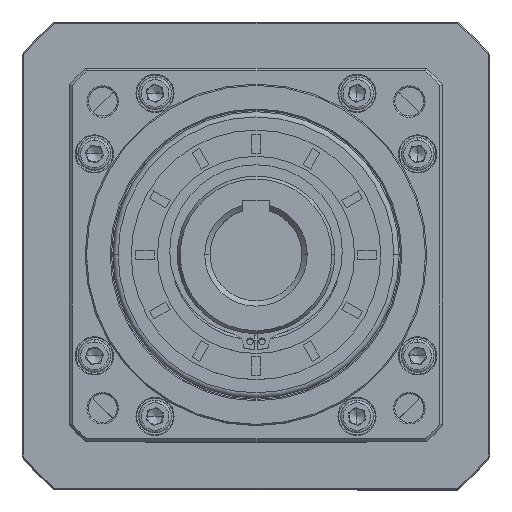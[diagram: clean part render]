
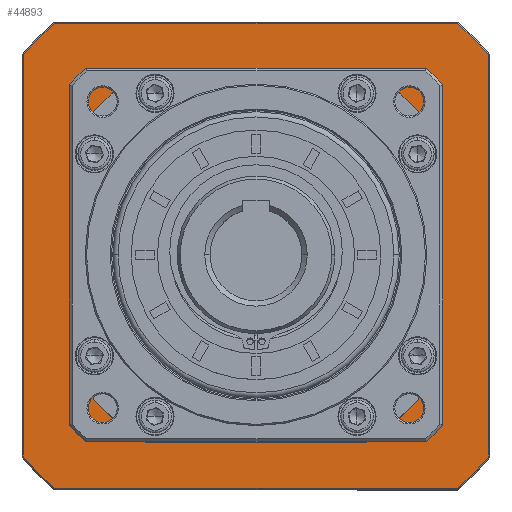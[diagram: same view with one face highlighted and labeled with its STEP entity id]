
A CAD part, top view. The second image highlights one B-rep face of the part: STEP entity #44893.
In plain terms, the highlighted planar face has unit normal (0, 0, 1).
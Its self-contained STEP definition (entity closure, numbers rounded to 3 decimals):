
#1108 = DIRECTION ( 'NONE',  ( 0., 1., 0. ) ) ;
#1833 = VERTEX_POINT ( 'NONE', #12938 ) ;
#2129 = CARTESIAN_POINT ( 'NONE',  ( 54.823, 51.831, 9.55 ) ) ;
#4545 = LINE ( 'NONE', #80952, #8919 ) ;
#5855 = EDGE_CURVE ( 'NONE', #78887, #1833, #36853, .T. ) ;
#7788 = CIRCLE ( 'NONE', #11355, 82. ) ;
#8919 = VECTOR ( 'NONE', #15076, 1000. ) ;
#9256 = VERTEX_POINT ( 'NONE', #83240 ) ;
#9906 = CARTESIAN_POINT ( 'NONE',  ( 214.323, 198.86, 9.55 ) ) ;
#10015 = AXIS2_PLACEMENT_3D ( 'NONE', #50588, #69672, #59295 ) ;
#10748 = ORIENTED_EDGE ( 'NONE', *, *, #57779, .F. ) ;
#11355 = AXIS2_PLACEMENT_3D ( 'NONE', #105370, #28653, #95358 ) ;
#12938 = CARTESIAN_POINT ( 'NONE',  ( 66.794, 39.86, 9.55 ) ) ;
#13500 = EDGE_CURVE ( 'NONE', #25512, #61530, #7788, .T. ) ;
#14575 = DIRECTION ( 'NONE',  ( 1., 0., 0. ) ) ;
#14766 = CARTESIAN_POINT ( 'NONE',  ( 143.323, 128.36, 9.55 ) ) ;
#15076 = DIRECTION ( 'NONE',  ( 0., -1., 0. ) ) ;
#15946 = VECTOR ( 'NONE', #60922, 1000. ) ;
#19432 = CIRCLE ( 'NONE', #29413, 82. ) ;
#19733 = VERTEX_POINT ( 'NONE', #2129 ) ;
#20453 = VECTOR ( 'NONE', #109154, 1000. ) ;
#20929 = DIRECTION ( 'NONE',  ( 0., 0., -1. ) ) ;
#21906 = CARTESIAN_POINT ( 'NONE',  ( 231.823, 51.831, 9.55 ) ) ;
#22272 = ORIENTED_EDGE ( 'NONE', *, *, #115937, .F. ) ;
#24746 = DIRECTION ( 'NONE',  ( 0., 0., 1. ) ) ;
#25512 = VERTEX_POINT ( 'NONE', #85828 ) ;
#27296 = CARTESIAN_POINT ( 'NONE',  ( 143.323, 128.36, 9.55 ) ) ;
#27977 = VERTEX_POINT ( 'NONE', #64816 ) ;
#28521 = DIRECTION ( 'NONE',  ( 0., 0., -1. ) ) ;
#28653 = DIRECTION ( 'NONE',  ( 0., 0., 1. ) ) ;
#29413 = AXIS2_PLACEMENT_3D ( 'NONE', #14766, #24746, #72223 ) ;
#29647 = CARTESIAN_POINT ( 'NONE',  ( 213.823, 86.483, 9.55 ) ) ;
#30828 = DIRECTION ( 'NONE',  ( 0., -1., 0. ) ) ;
#33333 = AXIS2_PLACEMENT_3D ( 'NONE', #77935, #20929, #59190 ) ;
#33398 = CARTESIAN_POINT ( 'NONE',  ( 143.323, 128.36, 9.55 ) ) ;
#33547 = CARTESIAN_POINT ( 'NONE',  ( 72.823, 86.483, 9.55 ) ) ;
#33910 = ORIENTED_EDGE ( 'NONE', *, *, #5855, .F. ) ;
#35587 = ORIENTED_EDGE ( 'NONE', *, *, #84718, .F. ) ;
#36316 = VERTEX_POINT ( 'NONE', #54301 ) ;
#36853 = LINE ( 'NONE', #79942, #20453 ) ;
#36903 = ORIENTED_EDGE ( 'NONE', *, *, #121812, .F. ) ;
#37369 = CARTESIAN_POINT ( 'NONE',  ( 231.823, 128.36, 9.55 ) ) ;
#39758 = CIRCLE ( 'NONE', #33333, 117. ) ;
#39822 = CARTESIAN_POINT ( 'NONE',  ( 143.323, 128.36, 9.55 ) ) ;
#40555 = LINE ( 'NONE', #9906, #79250 ) ;
#41025 = DIRECTION ( 'NONE',  ( 1., 0., 0. ) ) ;
#44543 = EDGE_CURVE ( 'NONE', #99228, #100012, #104557, .T. ) ;
#44893 = ADVANCED_FACE ( 'NONE', ( #104437, #79021 ), #54360, .F. ) ;
#45217 = VECTOR ( 'NONE', #41025, 1000. ) ;
#45822 = ORIENTED_EDGE ( 'NONE', *, *, #68324, .F. ) ;
#46142 = AXIS2_PLACEMENT_3D ( 'NONE', #27296, #28521, #47312 ) ;
#47312 = DIRECTION ( 'NONE',  ( -1., 0., 0. ) ) ;
#47781 = DIRECTION ( 'NONE',  ( 1., 0., 0. ) ) ;
#50588 = CARTESIAN_POINT ( 'NONE',  ( 143.323, 128.36, 9.55 ) ) ;
#51250 = DIRECTION ( 'NONE',  ( 0., 0., 1. ) ) ;
#51308 = CARTESIAN_POINT ( 'NONE',  ( 185.201, 198.86, 9.55 ) ) ;
#51862 = LINE ( 'NONE', #114101, #84654 ) ;
#51886 = VERTEX_POINT ( 'NONE', #73544 ) ;
#52363 = EDGE_CURVE ( 'NONE', #100012, #78887, #78044, .T. ) ;
#53304 = CARTESIAN_POINT ( 'NONE',  ( 213.823, 57.36, 9.55 ) ) ;
#54301 = CARTESIAN_POINT ( 'NONE',  ( 101.446, 198.86, 9.55 ) ) ;
#54360 = PLANE ( 'NONE',  #122586 ) ;
#55256 = ORIENTED_EDGE ( 'NONE', *, *, #100075, .F. ) ;
#55645 = CIRCLE ( 'NONE', #112698, 117. ) ;
#57779 = EDGE_CURVE ( 'NONE', #63009, #121752, #113924, .T. ) ;
#58174 = VERTEX_POINT ( 'NONE', #75043 ) ;
#58489 = CARTESIAN_POINT ( 'NONE',  ( 219.853, 39.86, 9.55 ) ) ;
#59190 = DIRECTION ( 'NONE',  ( -1., 0., 0. ) ) ;
#59295 = DIRECTION ( 'NONE',  ( -1., 0., 0. ) ) ;
#60102 = VECTOR ( 'NONE', #65305, 1000. ) ;
#60922 = DIRECTION ( 'NONE',  ( 0., 1., 0. ) ) ;
#61530 = VERTEX_POINT ( 'NONE', #51308 ) ;
#63009 = VERTEX_POINT ( 'NONE', #33547 ) ;
#63386 = VERTEX_POINT ( 'NONE', #29647 ) ;
#63914 = DIRECTION ( 'NONE',  ( -1., 0., 0. ) ) ;
#64816 = CARTESIAN_POINT ( 'NONE',  ( 54.823, 204.89, 9.55 ) ) ;
#65305 = DIRECTION ( 'NONE',  ( 0., 1., 0. ) ) ;
#68324 = EDGE_CURVE ( 'NONE', #27977, #51886, #121497, .T. ) ;
#69105 = CARTESIAN_POINT ( 'NONE',  ( 143.323, 128.36, 9.55 ) ) ;
#69672 = DIRECTION ( 'NONE',  ( 0., 0., -1. ) ) ;
#72223 = DIRECTION ( 'NONE',  ( 1., 0., 0. ) ) ;
#73312 = EDGE_CURVE ( 'NONE', #115764, #63009, #4545, .T. ) ;
#73544 = CARTESIAN_POINT ( 'NONE',  ( 66.794, 216.86, 9.55 ) ) ;
#74254 = ORIENTED_EDGE ( 'NONE', *, *, #92327, .F. ) ;
#74416 = EDGE_CURVE ( 'NONE', #121752, #9256, #51862, .T. ) ;
#75043 = CARTESIAN_POINT ( 'NONE',  ( 219.853, 216.86, 9.55 ) ) ;
#75477 = ORIENTED_EDGE ( 'NONE', *, *, #52363, .F. ) ;
#75605 = AXIS2_PLACEMENT_3D ( 'NONE', #69105, #51250, #30828 ) ;
#77935 = CARTESIAN_POINT ( 'NONE',  ( 143.323, 128.36, 9.55 ) ) ;
#78044 = CIRCLE ( 'NONE', #10015, 117. ) ;
#78491 = DIRECTION ( 'NONE',  ( 0., 0., -1. ) ) ;
#78887 = VERTEX_POINT ( 'NONE', #58489 ) ;
#79021 = FACE_BOUND ( 'NONE', #90533, .T. ) ;
#79250 = VECTOR ( 'NONE', #108277, 1000. ) ;
#79942 = CARTESIAN_POINT ( 'NONE',  ( 143.323, 39.86, 9.55 ) ) ;
#80952 = CARTESIAN_POINT ( 'NONE',  ( 72.823, 57.36, 9.55 ) ) ;
#81401 = ORIENTED_EDGE ( 'NONE', *, *, #82976, .F. ) ;
#82530 = LINE ( 'NONE', #89733, #45217 ) ;
#82976 = EDGE_CURVE ( 'NONE', #9256, #63386, #107133, .T. ) ;
#83240 = CARTESIAN_POINT ( 'NONE',  ( 185.201, 57.86, 9.55 ) ) ;
#84037 = CARTESIAN_POINT ( 'NONE',  ( 72.823, 170.238, 9.55 ) ) ;
#84144 = ORIENTED_EDGE ( 'NONE', *, *, #74416, .F. ) ;
#84337 = DIRECTION ( 'NONE',  ( 0., 0., -1. ) ) ;
#84654 = VECTOR ( 'NONE', #47781, 1000. ) ;
#84718 = EDGE_CURVE ( 'NONE', #51886, #58174, #82530, .T. ) ;
#85683 = DIRECTION ( 'NONE',  ( 0., -1., 0. ) ) ;
#85828 = CARTESIAN_POINT ( 'NONE',  ( 213.823, 170.238, 9.55 ) ) ;
#87027 = CARTESIAN_POINT ( 'NONE',  ( 231.823, 204.89, 9.55 ) ) ;
#89733 = CARTESIAN_POINT ( 'NONE',  ( 143.323, 216.86, 9.55 ) ) ;
#90533 = EDGE_LOOP ( 'NONE', ( #91850, #111810, #81401, #84144, #10748, #121045, #55256, #74254 ) ) ;
#91850 = ORIENTED_EDGE ( 'NONE', *, *, #13500, .F. ) ;
#92327 = EDGE_CURVE ( 'NONE', #61530, #36316, #40555, .T. ) ;
#94118 = VECTOR ( 'NONE', #85683, 1000. ) ;
#95021 = LINE ( 'NONE', #117698, #15946 ) ;
#95358 = DIRECTION ( 'NONE',  ( 0., -1., 0. ) ) ;
#97256 = CARTESIAN_POINT ( 'NONE',  ( 101.446, 57.86, 9.55 ) ) ;
#98869 = EDGE_CURVE ( 'NONE', #58174, #99228, #39758, .T. ) ;
#99228 = VERTEX_POINT ( 'NONE', #87027 ) ;
#100012 = VERTEX_POINT ( 'NONE', #21906 ) ;
#100075 = EDGE_CURVE ( 'NONE', #36316, #115764, #19432, .T. ) ;
#100078 = DIRECTION ( 'NONE',  ( 0., 0., 1. ) ) ;
#100458 = EDGE_LOOP ( 'NONE', ( #33910, #75477, #114642, #123370, #35587, #45822, #36903, #22272 ) ) ;
#104437 = FACE_OUTER_BOUND ( 'NONE', #100458, .T. ) ;
#104557 = LINE ( 'NONE', #37369, #94118 ) ;
#105370 = CARTESIAN_POINT ( 'NONE',  ( 143.323, 128.36, 9.55 ) ) ;
#105701 = EDGE_CURVE ( 'NONE', #63386, #25512, #112358, .T. ) ;
#107133 = CIRCLE ( 'NONE', #109981, 82. ) ;
#108277 = DIRECTION ( 'NONE',  ( -1., 0., 0. ) ) ;
#109154 = DIRECTION ( 'NONE',  ( -1., 0., 0. ) ) ;
#109981 = AXIS2_PLACEMENT_3D ( 'NONE', #33398, #100078, #14575 ) ;
#111810 = ORIENTED_EDGE ( 'NONE', *, *, #105701, .F. ) ;
#112358 = LINE ( 'NONE', #53304, #60102 ) ;
#112698 = AXIS2_PLACEMENT_3D ( 'NONE', #39822, #78491, #1108 ) ;
#113924 = CIRCLE ( 'NONE', #75605, 82. ) ;
#114101 = CARTESIAN_POINT ( 'NONE',  ( 214.323, 57.86, 9.55 ) ) ;
#114642 = ORIENTED_EDGE ( 'NONE', *, *, #44543, .F. ) ;
#115764 = VERTEX_POINT ( 'NONE', #84037 ) ;
#115937 = EDGE_CURVE ( 'NONE', #1833, #19733, #55645, .T. ) ;
#117698 = CARTESIAN_POINT ( 'NONE',  ( 54.823, 128.36, 9.55 ) ) ;
#121045 = ORIENTED_EDGE ( 'NONE', *, *, #73312, .F. ) ;
#121126 = CARTESIAN_POINT ( 'NONE',  ( 143.323, 128.36, 9.55 ) ) ;
#121497 = CIRCLE ( 'NONE', #46142, 117. ) ;
#121752 = VERTEX_POINT ( 'NONE', #97256 ) ;
#121812 = EDGE_CURVE ( 'NONE', #19733, #27977, #95021, .T. ) ;
#122586 = AXIS2_PLACEMENT_3D ( 'NONE', #121126, #84337, #63914 ) ;
#123370 = ORIENTED_EDGE ( 'NONE', *, *, #98869, .F. ) ;
